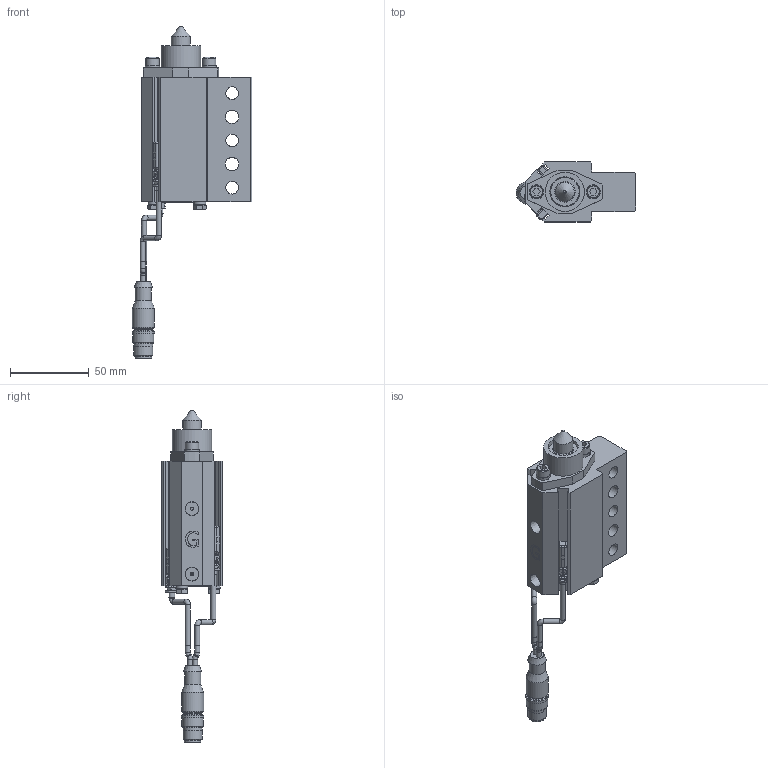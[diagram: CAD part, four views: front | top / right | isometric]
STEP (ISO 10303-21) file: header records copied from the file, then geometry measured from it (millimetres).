
FILE_DESCRIPTION(/* description */ (''),/* implementation_level */ '2;1');
FILE_NAME(/* name */ 'C:\TEMP\RMP1200BGL3.stp',/* time_stamp */ '2018-08-29T09:00:35-04:00',/* author */ ('KLabrecque'),/* organization */ (''),/* preprocessor_version */ 'ST-DEVELOPER v17',/* originating_system */ 'Autodesk Inventor 2018',/* authorisation */ '');
FILE_SCHEMA (('AUTOMOTIVE_DESIGN { 1 0 10303 214 3 1 1 }'));
Length unit declared in the file: millimetre
Products named in the file (13): RMP1200BGL3; NL5; M5X0.8-16 SHCS; RMPE03; RMPE01-PORT; RMPE02; RMPE05-PIN DIA; Micro L0 SWITCH ASSY; Micro_BIM-UNT-Cable-25 STK; Micro_BIM-UNT-Cable2; MPS_CONNECTOR; M4X0.7-6 HEX; NL4
Assembly tree (16 placements, depth 3):
  RMP1200BGL3
    NL5  x2
    M5X0.8-16 SHCS  x2
    RMPE03
    RMPE01-PORT
    RMPE02
    RMPE05-PIN DIA
    Micro L0 SWITCH ASSY
      Micro_BIM-UNT-Cable-25 STK
      Micro_BIM-UNT-Cable2
      MPS_CONNECTOR
    M4X0.7-6 HEX  x2
    NL4  x2
Bounding box: 75.9 x 38.1 x 210.54 mm (x, y, z)
Volume: 148638.1 mm3; surface area: 51761.1 mm2
Topology: 15 solids, 15 shells, 442 faces, 1141 edges, 757 vertices
Faces by surface type: plane 231, cylinder 117, cone 51, bspline 30, torus 12, sphere 1
Full cylindrical faces by diameter (mm): 1.9 x2, 2 x2, 2.6 x2, 3.175 x4, 3.2 x6, 3.242 x2, 4 x4, 4.134 x2, 4.4 x2, 5 x4, 5.4 x2, 5.5 x2, 6.3 x2, 6.647 x2, 7.6 x2, 8 x6, 8.5 x4, 9 x2, 9.6 x1, 10.2 x1, 10.49 x1, 11.989 x2, 12 x1, 12.497 x1, 13.005 x1, 13.487 x1, 14 x1, 14.199 x1, 15 x1, 16 x1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
Entity records: 14394 total; most frequent: CARTESIAN_POINT 3551, DIRECTION 2164, ORIENTED_EDGE 2102, EDGE_CURVE 1051, AXIS2_PLACEMENT_3D 797, VERTEX_POINT 706, LINE 570, VECTOR 570
